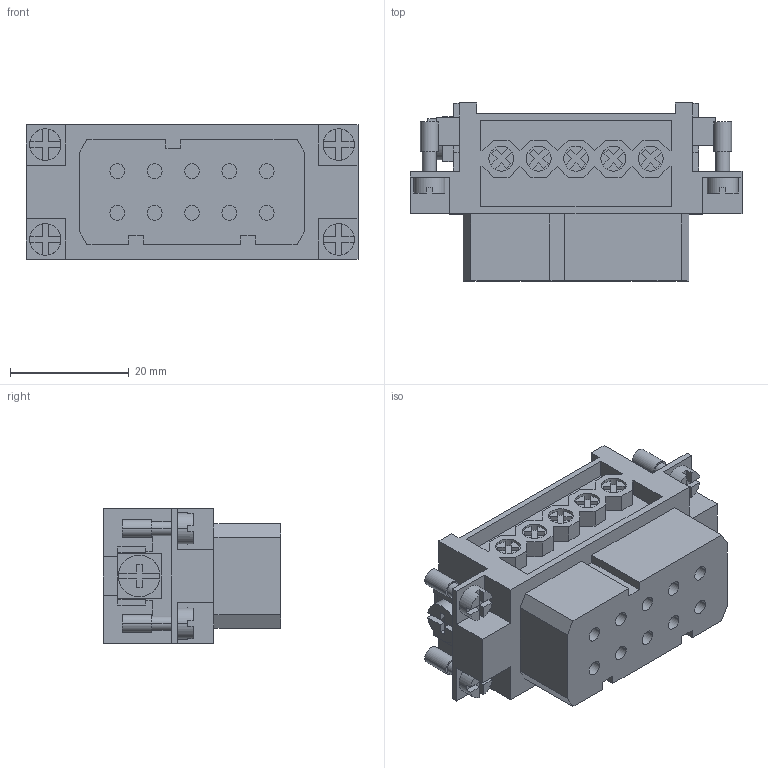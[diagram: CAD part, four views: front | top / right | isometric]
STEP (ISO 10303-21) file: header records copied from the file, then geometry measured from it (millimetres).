
FILE_DESCRIPTION (( 'STEP AP203' ), '1' );
FILE_NAME ('366471.STEP', '2025-06-27T11:13:46', ( '' ), ( '' ), 'SwSTEP 2.0', 'SolidWorks 2018', '' );
FILE_SCHEMA (( 'CONFIG_CONTROL_DESIGN' ));
Length unit declared in the file: millimetre
Products named in the file (1): 366471
Bounding box: 56 x 30 x 22.7 mm (x, y, z)
Volume: 20665.8 mm3; surface area: 11135.8 mm2
Topology: 1 solids, 1 shells, 551 faces, 1466 edges, 976 vertices
Faces by surface type: plane 443, cylinder 108
Entity records: 17117 total; most frequent: CARTESIAN_POINT 2994, ORIENTED_EDGE 2932, DIRECTION 2862, EDGE_CURVE 1466, LINE 1174, VECTOR 1174, VERTEX_POINT 976, AXIS2_PLACEMENT_3D 844
